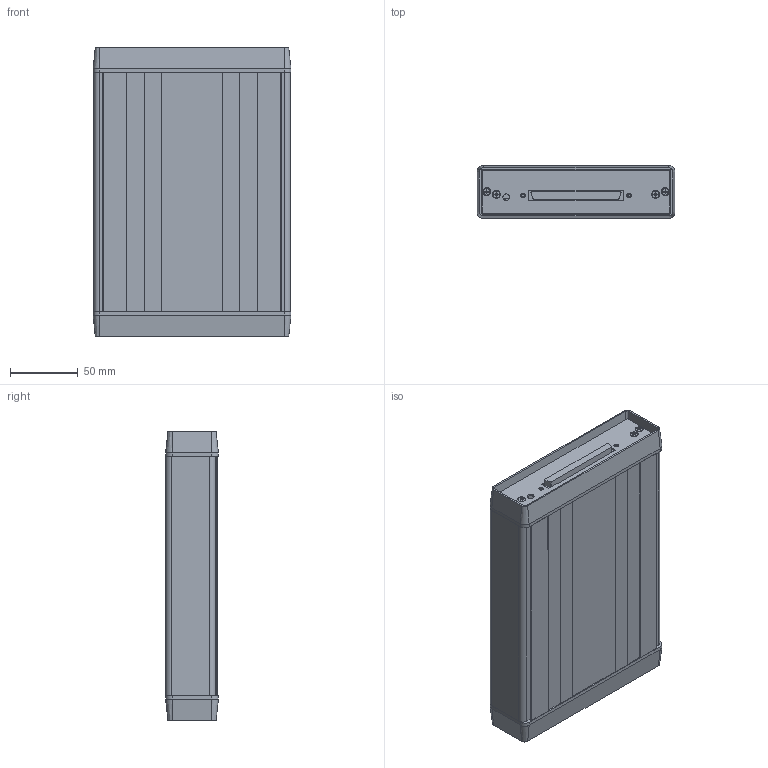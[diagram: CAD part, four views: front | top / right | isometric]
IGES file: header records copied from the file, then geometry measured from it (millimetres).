
Start section:  PTC IGES file: cu_usb_daqpad_mass_small.igs
Global section: file name: cu_usb_daqpad_mass_small.igs; native system: Pro/ENGINEER by Parametric Technology Corporation; preprocessor: 2006080; author: jpearson; organization: Unknown; date: 070828.142230; units: inch
Bounding box: 146 x 38.86 x 212.7 mm (x, y, z)
Surface area: 208881.6 mm2 (no closed solid volume)
Topology: 0 solids, 0 shells, 1011 faces, 5312 edges, 5132 vertices
Faces by surface type: bspline 779, revolution 232
